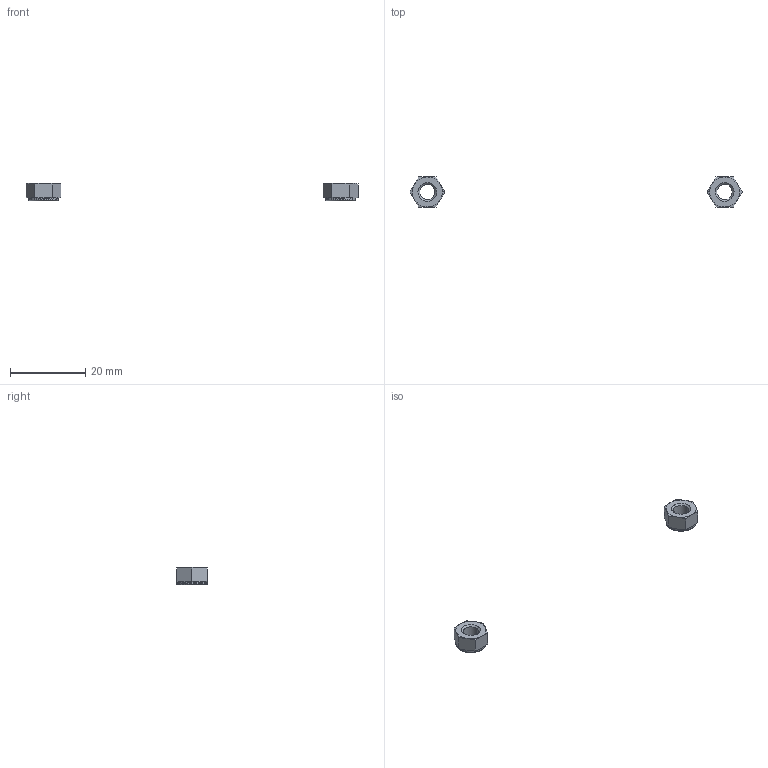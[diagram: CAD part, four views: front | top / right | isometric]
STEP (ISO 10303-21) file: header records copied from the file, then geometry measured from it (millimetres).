
FILE_DESCRIPTION(/* description */ (''),/* implementation_level */ '2;1');
FILE_NAME(/* name */ '7.x-cart#7.5#PACK-UNUT5',/* time_stamp */ '2014-12-01T20:17:32+01:00',/* author */ (''),/* organization */ (''),/* preprocessor_version */ 'ST-DEVELOPER v14',/* originating_system */ '',/* authorisation */ '');
FILE_SCHEMA (('AUTOMOTIVE_DESIGN'));
Length unit declared in the file: millimetre
Products named in the file (2): Document; nut DIN985-like, lock, M5
Assembly tree (2 placements, depth 2):
  Document
    nut DIN985-like, lock, M5  x2
Bounding box: 88.24 x 8 x 4.6 mm (x, y, z)
Volume: 352 mm3; surface area: 543.5 mm2
Topology: 2 solids, 2 shells, 108 faces, 260 edges, 156 vertices
Faces by surface type: bspline 62, plane 46
Entity records: 3582 total; most frequent: CARTESIAN_POINT 1915, ORIENTED_EDGE 260, PCURVE 260, DEFINITIONAL_REPRESENTATION 260, B_SPLINE_CURVE_WITH_KNOTS 249, SURFACE_CURVE 130, EDGE_CURVE 130, VERTEX_POINT 78
